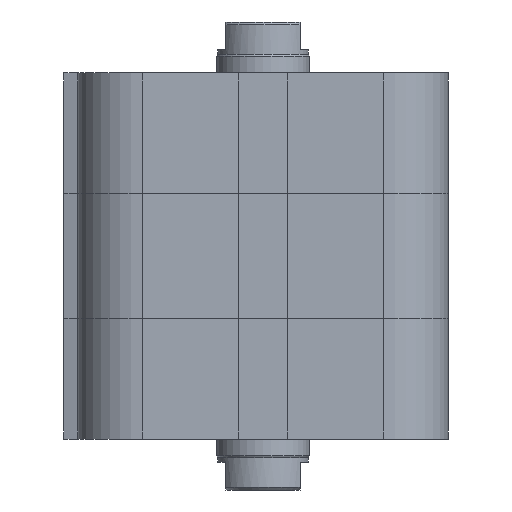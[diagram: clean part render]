
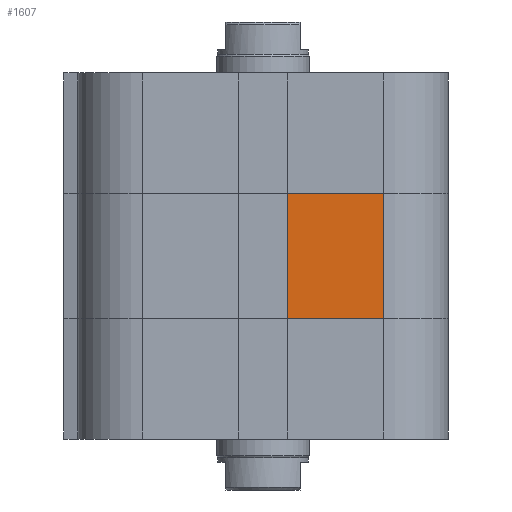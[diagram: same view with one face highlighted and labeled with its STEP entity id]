
A CAD part, left-side view. The second image highlights one B-rep face of the part: STEP entity #1607.
In plain terms, the highlighted planar face has unit normal (-1, 0, 0).
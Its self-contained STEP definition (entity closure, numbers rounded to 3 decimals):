
#1520=CARTESIAN_POINT('',(-20.0,-2.6,13.));
#1521=VERTEX_POINT('',#1520);
#1528=CARTESIAN_POINT('',(-20.0,-2.6,26.5));
#1529=VERTEX_POINT('',#1528);
#1530=CARTESIAN_POINT('',(-20.0,-2.6,13.));
#1531=DIRECTION('',(0.0,0.0,1.0));
#1532=VECTOR('',#1531,13.5);
#1533=LINE('',#1530,#1532);
#1534=EDGE_CURVE('',#1521,#1529,#1533,.T.);
#1577=CARTESIAN_POINT('',(-20.,-13.,0.0));
#1578=DIRECTION('',(-1.0,0.0,0.0));
#1579=DIRECTION('',(0.0,0.0,1.0));
#1580=AXIS2_PLACEMENT_3D('',#1577,#1578,#1579);
#1581=PLANE('',#1580);
#1582=CARTESIAN_POINT('',(-20.,-13.,13.));
#1583=VERTEX_POINT('',#1582);
#1584=CARTESIAN_POINT('',(-20.,-2.6,13.));
#1585=DIRECTION('',(0.0,-1.0,0.0));
#1586=VECTOR('',#1585,10.4);
#1587=LINE('',#1584,#1586);
#1588=EDGE_CURVE('',#1521,#1583,#1587,.T.);
#1589=ORIENTED_EDGE('',*,*,#1588,.T.);
#1590=CARTESIAN_POINT('',(-20.,-13.,26.5));
#1591=VERTEX_POINT('',#1590);
#1592=CARTESIAN_POINT('',(-20.,-13.,13.));
#1593=DIRECTION('',(0.0,0.0,1.0));
#1594=VECTOR('',#1593,13.5);
#1595=LINE('',#1592,#1594);
#1596=EDGE_CURVE('',#1583,#1591,#1595,.T.);
#1597=ORIENTED_EDGE('',*,*,#1596,.T.);
#1598=CARTESIAN_POINT('',(-20.,-2.6,26.5));
#1599=DIRECTION('',(0.0,-1.0,0.0));
#1600=VECTOR('',#1599,10.4);
#1601=LINE('',#1598,#1600);
#1602=EDGE_CURVE('',#1529,#1591,#1601,.T.);
#1603=ORIENTED_EDGE('',*,*,#1602,.F.);
#1604=ORIENTED_EDGE('',*,*,#1534,.F.);
#1605=EDGE_LOOP('',(#1589,#1597,#1603,#1604));
#1606=FACE_OUTER_BOUND('',#1605,.T.);
#1607=ADVANCED_FACE('',(#1606),#1581,.T.);
